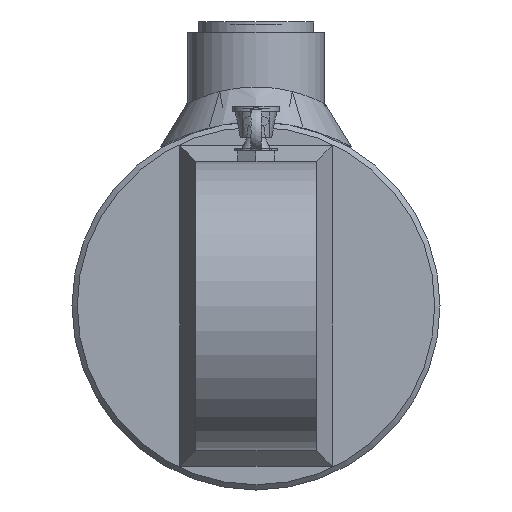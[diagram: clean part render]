
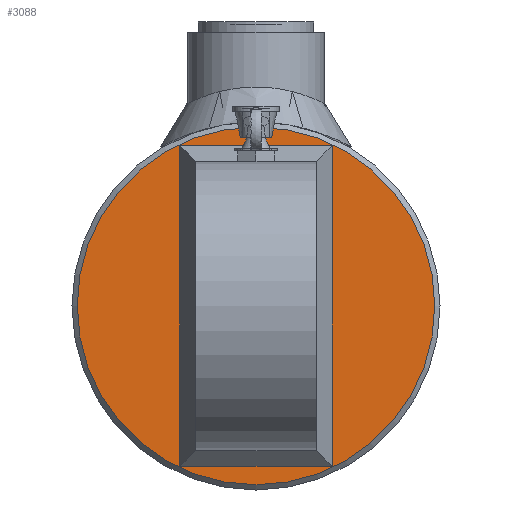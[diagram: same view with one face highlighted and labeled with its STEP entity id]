
A CAD part, left-side view. The second image highlights one B-rep face of the part: STEP entity #3088.
In plain terms, the highlighted planar face has unit normal (-1, 0, 0).
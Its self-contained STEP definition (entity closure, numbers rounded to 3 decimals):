
#3088 = ADVANCED_FACE( '', ( #7285 ), #7286, .T. );
#7285 = FACE_OUTER_BOUND( '', #9194, .T. );
#7286 = PLANE( '', #9195 );
#9194 = EDGE_LOOP( '', ( #10068 ) );
#9195 = AXIS2_PLACEMENT_3D( '', #10069, #10070, #10071 );
#10068 = ORIENTED_EDGE( '', *, *, #11212, .T. );
#10069 = CARTESIAN_POINT( '', ( -12., 0., 0. ) );
#10070 = DIRECTION( '', ( -1., 0., 0. ) );
#10071 = DIRECTION( '', ( 0., -1., 0. ) );
#11212 = EDGE_CURVE( '', #13759, #13759, #13760, .T. );
#13759 = VERTEX_POINT( '', #14755 );
#13760 = CIRCLE( '', #14756, 34. );
#14755 = CARTESIAN_POINT( '', ( -12., -34., 0. ) );
#14756 = AXIS2_PLACEMENT_3D( '', #14957, #14958, #14959 );
#14957 = CARTESIAN_POINT( '', ( -12., 0., 0. ) );
#14958 = DIRECTION( '', ( -1., 0., 0. ) );
#14959 = DIRECTION( '', ( 0., -1., 0. ) );
